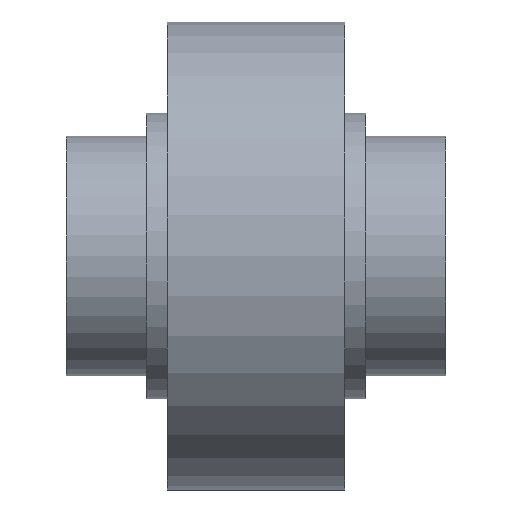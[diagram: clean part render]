
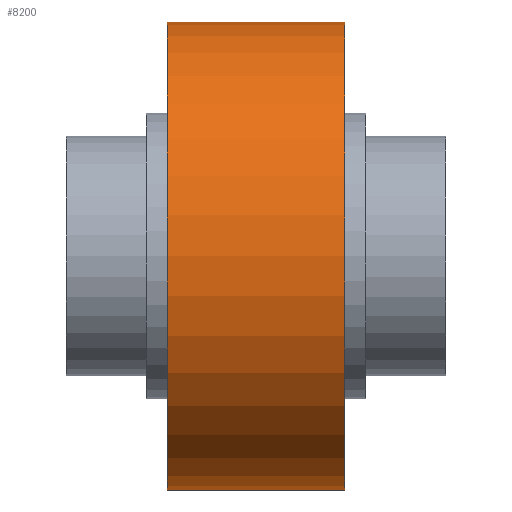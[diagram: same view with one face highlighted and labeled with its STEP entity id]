
A CAD part, top view. The second image highlights one B-rep face of the part: STEP entity #8200.
In plain terms, the highlighted cylindrical face has radius 250 mm (diameter 500 mm), a partial arc.
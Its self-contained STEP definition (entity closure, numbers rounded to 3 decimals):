
#7952=CARTESIAN_POINT('',(95.,0.,0.));
#7953=DIRECTION('',(1.,0.,0.));
#7954=DIRECTION('',(0.,1.,0.));
#7955=AXIS2_PLACEMENT_3D('',#7952,#7953,#7954);
#7957=DIRECTION('',(-1.,0.,0.));
#7958=VECTOR('',#7957,190.);
#7959=CARTESIAN_POINT('',(95.,250.,0.));
#7960=LINE('',#7959,#7958);
#7961=DIRECTION('',(-1.,0.,0.));
#7962=VECTOR('',#7961,190.);
#7963=CARTESIAN_POINT('',(95.,-250.,0.));
#7964=LINE('',#7963,#7962);
#7975=CARTESIAN_POINT('',(-95.,0.,0.));
#7976=DIRECTION('',(1.,0.,0.));
#7977=DIRECTION('',(0.,1.,0.));
#7978=AXIS2_PLACEMENT_3D('',#7975,#7976,#7977);
#8032=CARTESIAN_POINT('',(95.,250.,0.));
#8033=CARTESIAN_POINT('',(-95.,250.,0.));
#8034=VERTEX_POINT('',#8032);
#8035=VERTEX_POINT('',#8033);
#8040=CARTESIAN_POINT('',(95.,-250.,0.));
#8041=CARTESIAN_POINT('',(-95.,-250.,0.));
#8042=VERTEX_POINT('',#8040);
#8043=VERTEX_POINT('',#8041);
#8186=CARTESIAN_POINT('',(-104.5,0.,0.));
#8187=DIRECTION('',(1.,0.,0.));
#8188=DIRECTION('',(0.,-1.,0.));
#8189=AXIS2_PLACEMENT_3D('',#8186,#8187,#8188);
#8190=CYLINDRICAL_SURFACE('',#8189,250.);
#8192=ORIENTED_EDGE('',*,*,#8191,.F.);
#8193=ORIENTED_EDGE('',*,*,#8175,.T.);
#8195=ORIENTED_EDGE('',*,*,#8194,.T.);
#8197=ORIENTED_EDGE('',*,*,#8196,.F.);
#8198=EDGE_LOOP('',(#8192,#8193,#8195,#8197));
#8199=FACE_OUTER_BOUND('',#8198,.F.);
#8200=ADVANCED_FACE('',(#8199),#8190,.T.);
#7956=CIRCLE('',#7955,250.);
#7979=CIRCLE('',#7978,250.);
#8175=EDGE_CURVE('',#8034,#8042,#7956,.T.);
#8191=EDGE_CURVE('',#8034,#8035,#7960,.T.);
#8194=EDGE_CURVE('',#8042,#8043,#7964,.T.);
#8196=EDGE_CURVE('',#8035,#8043,#7979,.T.);
